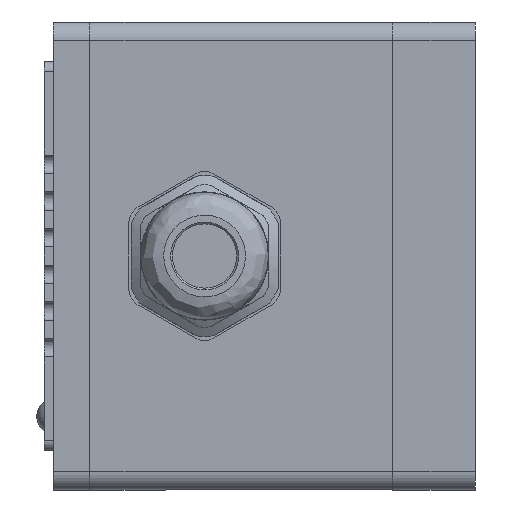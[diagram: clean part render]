
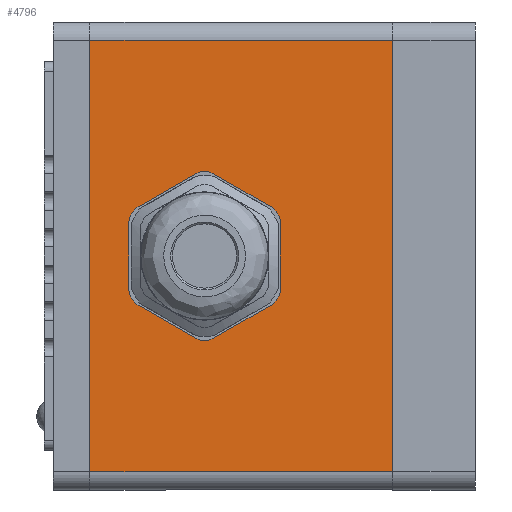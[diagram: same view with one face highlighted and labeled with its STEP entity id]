
A CAD part, left-side view. The second image highlights one B-rep face of the part: STEP entity #4796.
In plain terms, the highlighted planar face has unit normal (-1, 0, 0).
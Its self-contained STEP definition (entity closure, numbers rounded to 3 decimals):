
#142 = CARTESIAN_POINT ( 'NONE',  ( -46., 29.5, -7.217 ) ) ;
#180 = AXIS2_PLACEMENT_3D ( 'NONE', #12679, #3079, #15052 ) ;
#223 = AXIS2_PLACEMENT_3D ( 'NONE', #12802, #18408, #8737 ) ;
#382 = EDGE_CURVE ( 'NONE', #9933, #10911, #9526, .T. ) ;
#560 = EDGE_CURVE ( 'NONE', #8900, #1460, #24669, .T. ) ;
#679 = CARTESIAN_POINT ( 'NONE',  ( -46., 28.5, 8.949 ) ) ;
#915 = CARTESIAN_POINT ( 'NONE',  ( -46., 36.75, 5.34 ) ) ;
#1409 = CARTESIAN_POINT ( 'NONE',  ( -46., 22.25, -5.34 ) ) ;
#1460 = VERTEX_POINT ( 'NONE', #22826 ) ;
#1686 = DIRECTION ( 'NONE',  ( 0., 1., 0. ) ) ;
#1702 = AXIS2_PLACEMENT_3D ( 'NONE', #12582, #14391, #20176 ) ;
#1792 = EDGE_CURVE ( 'NONE', #21504, #15355, #23318, .T. ) ;
#1860 = EDGE_CURVE ( 'NONE', #6470, #6975, #19403, .T. ) ;
#1862 = CARTESIAN_POINT ( 'NONE',  ( -46., 21.25, -4.763 ) ) ;
#2165 = CARTESIAN_POINT ( 'NONE',  ( -46., 42., 25.5 ) ) ;
#2452 = ORIENTED_EDGE ( 'NONE', *, *, #11656, .T. ) ;
#3079 = DIRECTION ( 'NONE',  ( 1., 0., 0. ) ) ;
#3343 = LINE ( 'NONE', #23177, #20057 ) ;
#3625 = VECTOR ( 'NONE', #10279, 1000. ) ;
#3691 = LINE ( 'NONE', #8335, #16121 ) ;
#3968 = DIRECTION ( 'NONE',  ( 0., 0.866, -0.5 ) ) ;
#4093 = CARTESIAN_POINT ( 'NONE',  ( -46., 23.25, 3.608 ) ) ;
#4234 = DIRECTION ( 'NONE',  ( 0., 0., -1. ) ) ;
#4386 = CARTESIAN_POINT ( 'NONE',  ( -46., 37.75, 4.763 ) ) ;
#4390 = LINE ( 'NONE', #7068, #19246 ) ;
#4478 = DIRECTION ( 'NONE',  ( 0., -0.866, -0.5 ) ) ;
#4708 = VECTOR ( 'NONE', #15361, 1000. ) ;
#4796 = ADVANCED_FACE ( 'NONE', ( #15159, #12112 ), #16087, .F. ) ;
#4869 = DIRECTION ( 'NONE',  ( 1., 0., 0. ) ) ;
#4968 = LINE ( 'NONE', #5966, #6452 ) ;
#5003 = EDGE_CURVE ( 'NONE', #19260, #19284, #3343, .T. ) ;
#5224 = DIRECTION ( 'NONE',  ( 0., -1., 0. ) ) ;
#5420 = CARTESIAN_POINT ( 'NONE',  ( -46., 42., -23.5 ) ) ;
#5478 = CARTESIAN_POINT ( 'NONE',  ( -46., 28.5, -8.949 ) ) ;
#5487 = ORIENTED_EDGE ( 'NONE', *, *, #22556, .F. ) ;
#5670 = CARTESIAN_POINT ( 'NONE',  ( -46., 36.75, -5.34 ) ) ;
#5966 = CARTESIAN_POINT ( 'NONE',  ( -46., 9., 25.5 ) ) ;
#6015 = DIRECTION ( 'NONE',  ( 1., 0., 0. ) ) ;
#6029 = ORIENTED_EDGE ( 'NONE', *, *, #1792, .F. ) ;
#6452 = VECTOR ( 'NONE', #10092, 1000. ) ;
#6470 = VERTEX_POINT ( 'NONE', #6830 ) ;
#6606 = ORIENTED_EDGE ( 'NONE', *, *, #12865, .F. ) ;
#6703 = ORIENTED_EDGE ( 'NONE', *, *, #18659, .T. ) ;
#6830 = CARTESIAN_POINT ( 'NONE',  ( -46., 22.25, 5.34 ) ) ;
#6906 = CARTESIAN_POINT ( 'NONE',  ( -46., 9., -23.5 ) ) ;
#6975 = VERTEX_POINT ( 'NONE', #679 ) ;
#7068 = CARTESIAN_POINT ( 'NONE',  ( -46., 49., -23.5 ) ) ;
#7133 = VERTEX_POINT ( 'NONE', #5420 ) ;
#7355 = EDGE_LOOP ( 'NONE', ( #15451, #21823, #11683, #7478, #6029, #24056, #6606, #23169, #23586, #14343, #8486, #6703 ) ) ;
#7478 = ORIENTED_EDGE ( 'NONE', *, *, #13003, .T. ) ;
#7817 = VERTEX_POINT ( 'NONE', #16300 ) ;
#8005 = VERTEX_POINT ( 'NONE', #5670 ) ;
#8335 = CARTESIAN_POINT ( 'NONE',  ( -46., 37.75, -4.763 ) ) ;
#8414 = EDGE_LOOP ( 'NONE', ( #5487, #15057, #21405, #2452 ) ) ;
#8461 = CIRCLE ( 'NONE', #223, 2. ) ;
#8486 = ORIENTED_EDGE ( 'NONE', *, *, #5003, .F. ) ;
#8737 = DIRECTION ( 'NONE',  ( 0., 0., -1. ) ) ;
#8900 = VERTEX_POINT ( 'NONE', #19462 ) ;
#8982 = CIRCLE ( 'NONE', #1702, 2. ) ;
#9400 = CARTESIAN_POINT ( 'NONE',  ( -46., 29.5, -9.526 ) ) ;
#9497 = DIRECTION ( 'NONE',  ( 0., 0., -1. ) ) ;
#9526 = LINE ( 'NONE', #4386, #11615 ) ;
#9933 = VERTEX_POINT ( 'NONE', #12542 ) ;
#10092 = DIRECTION ( 'NONE',  ( 0., 0., -1. ) ) ;
#10279 = DIRECTION ( 'NONE',  ( 0., 0.866, 0.5 ) ) ;
#10676 = CIRCLE ( 'NONE', #12163, 2. ) ;
#10911 = VERTEX_POINT ( 'NONE', #19578 ) ;
#11328 = DIRECTION ( 'NONE',  ( 1., 0., 0. ) ) ;
#11615 = VECTOR ( 'NONE', #20138, 1000. ) ;
#11655 = VERTEX_POINT ( 'NONE', #6906 ) ;
#11656 = EDGE_CURVE ( 'NONE', #7133, #11655, #4390, .T. ) ;
#11683 = ORIENTED_EDGE ( 'NONE', *, *, #18976, .F. ) ;
#11818 = CARTESIAN_POINT ( 'NONE',  ( -46., 49., 25.5 ) ) ;
#11903 = DIRECTION ( 'NONE',  ( 1., 0., 0. ) ) ;
#12112 = FACE_OUTER_BOUND ( 'NONE', #8414, .T. ) ;
#12163 = AXIS2_PLACEMENT_3D ( 'NONE', #4093, #6015, #21468 ) ;
#12542 = CARTESIAN_POINT ( 'NONE',  ( -46., 37.75, 3.608 ) ) ;
#12582 = CARTESIAN_POINT ( 'NONE',  ( -46., 35.75, 3.608 ) ) ;
#12629 = AXIS2_PLACEMENT_3D ( 'NONE', #14588, #4869, #24506 ) ;
#12679 = CARTESIAN_POINT ( 'NONE',  ( -46., 35.75, -3.608 ) ) ;
#12802 = CARTESIAN_POINT ( 'NONE',  ( -46., 23.25, -3.608 ) ) ;
#12865 = EDGE_CURVE ( 'NONE', #8005, #7817, #3691, .T. ) ;
#12991 = VECTOR ( 'NONE', #13189, 1000. ) ;
#13003 = EDGE_CURVE ( 'NONE', #18109, #15355, #8461, .T. ) ;
#13189 = DIRECTION ( 'NONE',  ( 0., -0.866, 0.5 ) ) ;
#13281 = EDGE_CURVE ( 'NONE', #1460, #7133, #16028, .T. ) ;
#13550 = EDGE_CURVE ( 'NONE', #9933, #19284, #8982, .T. ) ;
#13747 = CARTESIAN_POINT ( 'NONE',  ( -46., 21.25, 4.763 ) ) ;
#14094 = LINE ( 'NONE', #1862, #4708 ) ;
#14343 = ORIENTED_EDGE ( 'NONE', *, *, #13550, .T. ) ;
#14391 = DIRECTION ( 'NONE',  ( 1., 0., 0. ) ) ;
#14588 = CARTESIAN_POINT ( 'NONE',  ( -46., 29.5, 7.217 ) ) ;
#14698 = CARTESIAN_POINT ( 'NONE',  ( -46., 21.25, -3.608 ) ) ;
#15052 = DIRECTION ( 'NONE',  ( 0., 0., -1. ) ) ;
#15057 = ORIENTED_EDGE ( 'NONE', *, *, #560, .T. ) ;
#15159 = FACE_BOUND ( 'NONE', #7355, .T. ) ;
#15355 = VERTEX_POINT ( 'NONE', #1409 ) ;
#15361 = DIRECTION ( 'NONE',  ( 0., 0., 1. ) ) ;
#15451 = ORIENTED_EDGE ( 'NONE', *, *, #1860, .F. ) ;
#16028 = LINE ( 'NONE', #2165, #19364 ) ;
#16087 = PLANE ( 'NONE',  #21027 ) ;
#16121 = VECTOR ( 'NONE', #4478, 1000. ) ;
#16300 = CARTESIAN_POINT ( 'NONE',  ( -46., 30.5, -8.949 ) ) ;
#17679 = EDGE_CURVE ( 'NONE', #6470, #23658, #10676, .T. ) ;
#18109 = VERTEX_POINT ( 'NONE', #14698 ) ;
#18293 = VECTOR ( 'NONE', #1686, 1000. ) ;
#18408 = DIRECTION ( 'NONE',  ( 1., 0., 0. ) ) ;
#18469 = AXIS2_PLACEMENT_3D ( 'NONE', #142, #11328, #19055 ) ;
#18659 = EDGE_CURVE ( 'NONE', #19260, #6975, #22365, .T. ) ;
#18809 = CARTESIAN_POINT ( 'NONE',  ( -46., 49., 23.5 ) ) ;
#18976 = EDGE_CURVE ( 'NONE', #18109, #23658, #14094, .T. ) ;
#19055 = DIRECTION ( 'NONE',  ( 0., 0., -1. ) ) ;
#19246 = VECTOR ( 'NONE', #5224, 1000. ) ;
#19260 = VERTEX_POINT ( 'NONE', #22055 ) ;
#19284 = VERTEX_POINT ( 'NONE', #915 ) ;
#19364 = VECTOR ( 'NONE', #9497, 1000. ) ;
#19403 = LINE ( 'NONE', #13747, #3625 ) ;
#19462 = CARTESIAN_POINT ( 'NONE',  ( -46., 9., 23.5 ) ) ;
#19578 = CARTESIAN_POINT ( 'NONE',  ( -46., 37.75, -3.608 ) ) ;
#20057 = VECTOR ( 'NONE', #3968, 1000. ) ;
#20087 = CIRCLE ( 'NONE', #18469, 2. ) ;
#20138 = DIRECTION ( 'NONE',  ( 0., 0., -1. ) ) ;
#20176 = DIRECTION ( 'NONE',  ( 0., 0., -1. ) ) ;
#21027 = AXIS2_PLACEMENT_3D ( 'NONE', #11818, #11903, #4234 ) ;
#21405 = ORIENTED_EDGE ( 'NONE', *, *, #13281, .T. ) ;
#21468 = DIRECTION ( 'NONE',  ( 0., 0., -1. ) ) ;
#21504 = VERTEX_POINT ( 'NONE', #5478 ) ;
#21823 = ORIENTED_EDGE ( 'NONE', *, *, #17679, .T. ) ;
#22055 = CARTESIAN_POINT ( 'NONE',  ( -46., 30.5, 8.949 ) ) ;
#22365 = CIRCLE ( 'NONE', #12629, 2. ) ;
#22556 = EDGE_CURVE ( 'NONE', #8900, #11655, #4968, .T. ) ;
#22826 = CARTESIAN_POINT ( 'NONE',  ( -46., 42., 23.5 ) ) ;
#23169 = ORIENTED_EDGE ( 'NONE', *, *, #24655, .T. ) ;
#23177 = CARTESIAN_POINT ( 'NONE',  ( -46., 29.5, 9.526 ) ) ;
#23318 = LINE ( 'NONE', #9400, #12991 ) ;
#23586 = ORIENTED_EDGE ( 'NONE', *, *, #382, .F. ) ;
#23658 = VERTEX_POINT ( 'NONE', #24557 ) ;
#24056 = ORIENTED_EDGE ( 'NONE', *, *, #24848, .T. ) ;
#24348 = CIRCLE ( 'NONE', #180, 2. ) ;
#24506 = DIRECTION ( 'NONE',  ( 0., 0., -1. ) ) ;
#24557 = CARTESIAN_POINT ( 'NONE',  ( -46., 21.25, 3.608 ) ) ;
#24655 = EDGE_CURVE ( 'NONE', #8005, #10911, #24348, .T. ) ;
#24669 = LINE ( 'NONE', #18809, #18293 ) ;
#24848 = EDGE_CURVE ( 'NONE', #21504, #7817, #20087, .T. ) ;
